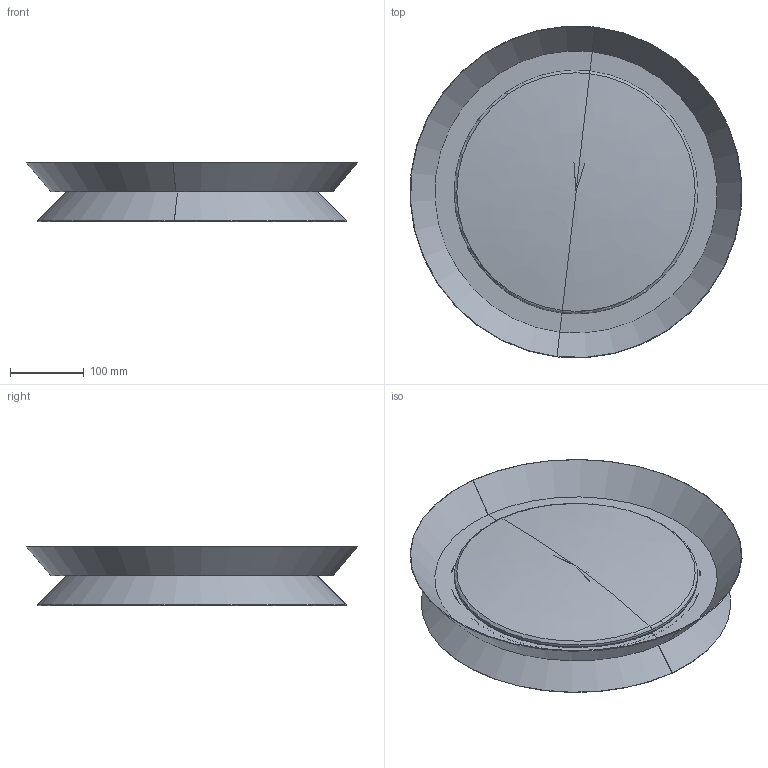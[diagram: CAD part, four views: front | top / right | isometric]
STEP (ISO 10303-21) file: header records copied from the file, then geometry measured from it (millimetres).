
FILE_DESCRIPTION(/* description */ (''),/* implementation_level */ '2;1');
FILE_NAME(/* name */ '20093.step',/* time_stamp */ '2024-04-08T09:45:44+02:00',/* author */ ('RenataManzini'),/* organization */ (''),/* preprocessor_version */ 'ST-DEVELOPER v20',/* originating_system */ 'AutoCAD Mechanical',/* authorisation */ '');
FILE_SCHEMA (('AUTOMOTIVE_DESIGN { 1 0 10303 214 3 1 1 }'));
Length unit declared in the file: millimetre
Products named in the file (2): Product; 20094_20095_lamp - Lamp-472367-_3D_
Assembly tree (1 placements, depth 2):
  Product
    20094_20095_lamp - Lamp-472367-_3D_
Bounding box: 449.07 x 449.07 x 80.06 mm (x, y, z)
Volume: 2292463.4 mm3; surface area: 746294.8 mm2
Topology: 4 solids, 4 shells, 62 faces, 135 edges, 77 vertices
Faces by surface type: plane 32, cylinder 12, cone 12, torus 4, bspline 2
Entity records: 2146 total; most frequent: CARTESIAN_POINT 751, DIRECTION 281, ORIENTED_EDGE 266, EDGE_CURVE 133, AXIS2_PLACEMENT_3D 99, LINE 83, VECTOR 83, VERTEX_POINT 77
